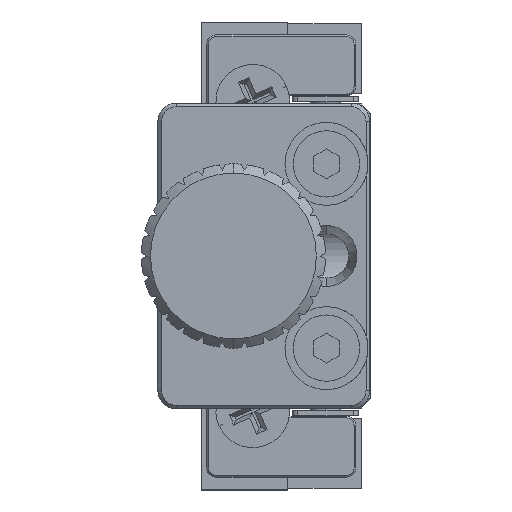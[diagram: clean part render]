
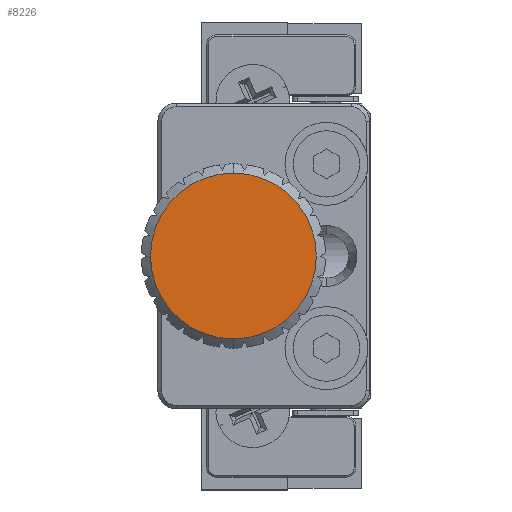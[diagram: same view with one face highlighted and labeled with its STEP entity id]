
A CAD part, left-side view. The second image highlights one B-rep face of the part: STEP entity #8226.
In plain terms, the highlighted planar face has unit normal (-1, 0, 0) as drawn and (0, 0, -1) by its records, which use the part's own axes.
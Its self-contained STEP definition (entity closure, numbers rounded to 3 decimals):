
#922 = FACE_OUTER_BOUND ( 'NONE', #10564, .T. ) ;
#1964 = EDGE_CURVE ( 'NONE', #3215, #2631, #8984, .T. ) ;
#2631 = VERTEX_POINT ( 'NONE', #4479 ) ;
#3215 = VERTEX_POINT ( 'NONE', #4677 ) ;
#4479 = CARTESIAN_POINT ( 'NONE',  ( -4.5, 0., 0. ) ) ;
#4677 = CARTESIAN_POINT ( 'NONE',  ( 4.5, 0., 0. ) ) ;
#5867 = CIRCLE ( 'NONE', #16000, 4.5 ) ;
#7218 = CARTESIAN_POINT ( 'NONE',  ( 0., 0., 0. ) ) ;
#7220 = DIRECTION ( 'NONE',  ( 1., 0., 0. ) ) ;
#7222 = DIRECTION ( 'NONE',  ( 0., 0., -1. ) ) ;
#8226 = ADVANCED_FACE ( 'NONE', ( #922 ), #13807, .F. ) ;
#8984 = CIRCLE ( 'NONE', #10926, 4.5 ) ;
#10564 = EDGE_LOOP ( 'NONE', ( #12639, #12546 ) ) ;
#10926 = AXIS2_PLACEMENT_3D ( 'NONE', #16618, #16604, #16609 ) ;
#12546 = ORIENTED_EDGE ( 'NONE', *, *, #16524, .T. ) ;
#12639 = ORIENTED_EDGE ( 'NONE', *, *, #1964, .T. ) ;
#13796 = DIRECTION ( 'NONE',  ( 0., 0., 1. ) ) ;
#13807 = PLANE ( 'NONE',  #15747 ) ;
#13814 = CARTESIAN_POINT ( 'NONE',  ( 0., 0., 0. ) ) ;
#13831 = DIRECTION ( 'NONE',  ( 1., 0., 0. ) ) ;
#15747 = AXIS2_PLACEMENT_3D ( 'NONE', #13814, #13796, #13831 ) ;
#16000 = AXIS2_PLACEMENT_3D ( 'NONE', #7218, #7222, #7220 ) ;
#16524 = EDGE_CURVE ( 'NONE', #2631, #3215, #5867, .T. ) ;
#16604 = DIRECTION ( 'NONE',  ( 0., 0., -1. ) ) ;
#16609 = DIRECTION ( 'NONE',  ( 1., 0., 0. ) ) ;
#16618 = CARTESIAN_POINT ( 'NONE',  ( 0., 0., 0. ) ) ;
